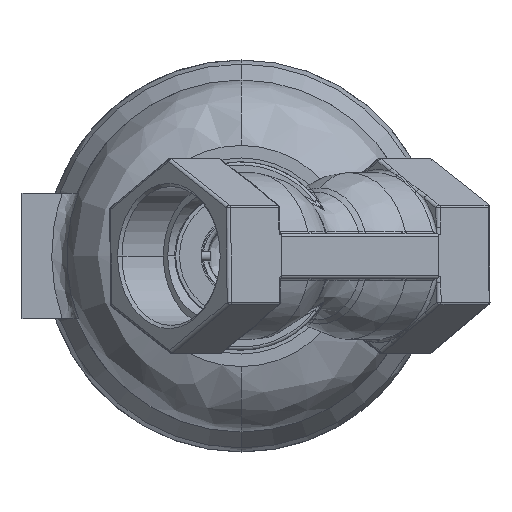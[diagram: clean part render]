
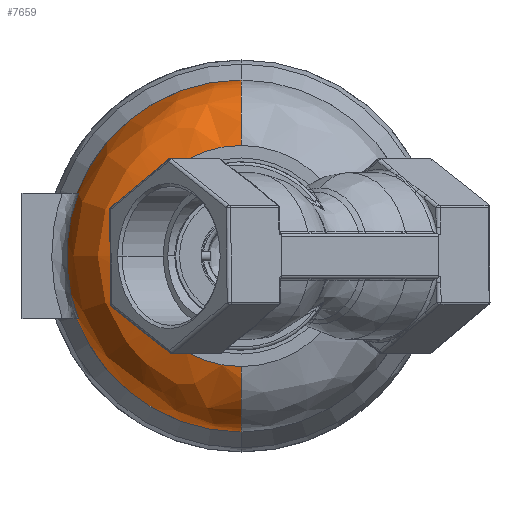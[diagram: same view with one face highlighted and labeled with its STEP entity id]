
A CAD part, front view. The second image highlights one B-rep face of the part: STEP entity #7659.
In plain terms, the highlighted free-form (B-spline) face has degree [3, 3] with [4, 4] control points.
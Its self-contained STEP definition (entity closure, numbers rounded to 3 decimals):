
#481 = CARTESIAN_POINT ( 'NONE',  ( -114., -53.48, 57. ) ) ;
#572 = CIRCLE ( 'NONE', #1756, 25.343 ) ;
#588 = CARTESIAN_POINT ( 'NONE',  ( -53.282, -55.169, -20.25 ) ) ;
#732 = VERTEX_POINT ( 'NONE', #18197 ) ;
#1079 = DIRECTION ( 'NONE',  ( 0., 0., -1. ) ) ;
#1756 = AXIS2_PLACEMENT_3D ( 'NONE', #14019, #4660, #15617 ) ;
#1948 = CARTESIAN_POINT ( 'NONE',  ( -71.627, -78.48, -35.814 ) ) ;
#2005 = CARTESIAN_POINT ( 'NONE',  ( 0., -53.48, -57. ) ) ;
#2077 = ORIENTED_EDGE ( 'NONE', *, *, #18089, .T. ) ;
#2284 = ORIENTED_EDGE ( 'NONE', *, *, #10965, .T. ) ;
#2806 = DIRECTION ( 'NONE',  ( 0., 0., -1. ) ) ;
#2828 = DIRECTION ( 'NONE',  ( 0., 1., 0. ) ) ;
#2875 = CARTESIAN_POINT ( 'NONE',  ( 0., -53.48, 0. ) ) ;
#3502 = CARTESIAN_POINT ( 'NONE',  ( 0., -76.352, 48.612 ) ) ;
#3590 = EDGE_CURVE ( 'NONE', #18694, #17084, #16952, .T. ) ;
#3657 = EDGE_CURVE ( 'NONE', #18694, #16664, #17733, .T. ) ;
#3845 = ORIENTED_EDGE ( 'NONE', *, *, #3657, .T. ) ;
#4653 = EDGE_CURVE ( 'NONE', #18358, #6309, #12442, .T. ) ;
#4660 = DIRECTION ( 'NONE',  ( -1., 0., 0. ) ) ;
#4801 =( BOUNDED_SURFACE ( )  B_SPLINE_SURFACE ( 3, 3, ( 
 ( #8132, #17447, #1948, #12843 ),
 ( #3502, #14421, #5065, #15982 ),
 ( #6606, #17517, #8207, #19038 ),
 ( #9767, #481, #11354, #2005 ) ),
 .UNSPECIFIED., .F., .F., .T. ) 
 B_SPLINE_SURFACE_WITH_KNOTS ( ( 4, 4 ),
 ( 4, 4 ),
 ( 0., 1. ),
 ( 0., 1. ),
 .UNSPECIFIED. ) 
 GEOMETRIC_REPRESENTATION_ITEM ( )  RATIONAL_B_SPLINE_SURFACE ( (
 ( 1., 0.333, 0.333, 1.),
 ( 0.842, 0.281, 0.281, 0.842),
 ( 0.842, 0.281, 0.281, 0.842),
 ( 1., 0.333, 0.333, 1.) ) ) 
 REPRESENTATION_ITEM ( '' )  SURFACE ( )  );
#4879 = ORIENTED_EDGE ( 'NONE', *, *, #14631, .F. ) ;
#5065 = CARTESIAN_POINT ( 'NONE',  ( -97.224, -76.352, -48.612 ) ) ;
#6309 = VERTEX_POINT ( 'NONE', #6536 ) ;
#6514 = CARTESIAN_POINT ( 'NONE',  ( 0., -53.48, -31.657 ) ) ;
#6536 = CARTESIAN_POINT ( 'NONE',  ( -53.282, -53.48, -20.25 ) ) ;
#6606 = CARTESIAN_POINT ( 'NONE',  ( 0., -66.454, 57. ) ) ;
#6691 = AXIS2_PLACEMENT_3D ( 'NONE', #2875, #2828, #2806 ) ;
#6847 = AXIS2_PLACEMENT_3D ( 'NONE', #19643, #10414, #1079 ) ;
#6997 = CARTESIAN_POINT ( 'NONE',  ( 0., -53.48, 57. ) ) ;
#7222 = CIRCLE ( 'NONE', #6847, 56.5 ) ;
#7507 = EDGE_CURVE ( 'NONE', #16664, #732, #7222, .T. ) ;
#7659 = ADVANCED_FACE ( 'NONE', ( #7727 ), #4801, .T. ) ;
#7727 = FACE_OUTER_BOUND ( 'NONE', #9461, .T. ) ;
#7861 = CARTESIAN_POINT ( 'NONE',  ( 0., -78.48, 0. ) ) ;
#7876 = B_SPLINE_CURVE_WITH_KNOTS ( 'NONE', 3,
 ( #18957, #17623, #588, #11472 ),
 .UNSPECIFIED., .F., .F.,
 ( 4, 4 ),
 ( 0., 0.005 ),
 .UNSPECIFIED. ) ;
#7981 = VERTEX_POINT ( 'NONE', #13850 ) ;
#8106 = DIRECTION ( 'NONE',  ( 0., 0., -1. ) ) ;
#8132 = CARTESIAN_POINT ( 'NONE',  ( 0., -78.48, 35.814 ) ) ;
#8207 = CARTESIAN_POINT ( 'NONE',  ( -114., -66.454, -57. ) ) ;
#9437 = DIRECTION ( 'NONE',  ( 0., 0., -1. ) ) ;
#9461 = EDGE_LOOP ( 'NONE', ( #2284, #2077, #16192, #3845, #14835, #19716, #11373, #4879 ) ) ;
#9767 = CARTESIAN_POINT ( 'NONE',  ( 0., -53.48, 57. ) ) ;
#9993 = CARTESIAN_POINT ( 'NONE',  ( -52.746, -58.491, 20.25 ) ) ;
#10198 = AXIS2_PLACEMENT_3D ( 'NONE', #6514, #17419, #8106 ) ;
#10414 = DIRECTION ( 'NONE',  ( 0., -1., 0. ) ) ;
#10965 = EDGE_CURVE ( 'NONE', #19970, #7981, #16735, .T. ) ;
#11116 = CARTESIAN_POINT ( 'NONE',  ( -52.746, -58.491, 20.25 ) ) ;
#11140 = CARTESIAN_POINT ( 'NONE',  ( -53.282, -53.48, 20.25 ) ) ;
#11284 = CARTESIAN_POINT ( 'NONE',  ( -53.282, -55.169, 20.25 ) ) ;
#11354 = CARTESIAN_POINT ( 'NONE',  ( -114., -53.48, -57. ) ) ;
#11373 = ORIENTED_EDGE ( 'NONE', *, *, #4653, .F. ) ;
#11388 = CARTESIAN_POINT ( 'NONE',  ( -53.103, -56.84, 20.25 ) ) ;
#11472 = CARTESIAN_POINT ( 'NONE',  ( -53.282, -53.48, -20.25 ) ) ;
#11643 = CIRCLE ( 'NONE', #10198, 25.343 ) ;
#12214 = DIRECTION ( 'NONE',  ( 0., 0., -1. ) ) ;
#12235 = DIRECTION ( 'NONE',  ( 0., 1., 0. ) ) ;
#12270 = CARTESIAN_POINT ( 'NONE',  ( 0., -53.48, 0. ) ) ;
#12442 = CIRCLE ( 'NONE', #6691, 57. ) ;
#12843 = CARTESIAN_POINT ( 'NONE',  ( 0., -78.48, -35.814 ) ) ;
#13018 = AXIS2_PLACEMENT_3D ( 'NONE', #12270, #12235, #12214 ) ;
#13850 = CARTESIAN_POINT ( 'NONE',  ( 0., -78.48, 35.814 ) ) ;
#14019 = CARTESIAN_POINT ( 'NONE',  ( 0., -53.48, 31.657 ) ) ;
#14421 = CARTESIAN_POINT ( 'NONE',  ( -97.224, -76.352, 48.612 ) ) ;
#14496 = CARTESIAN_POINT ( 'NONE',  ( 0., -53.48, -57. ) ) ;
#14631 = EDGE_CURVE ( 'NONE', #19970, #18358, #11643, .T. ) ;
#14835 = ORIENTED_EDGE ( 'NONE', *, *, #7507, .T. ) ;
#15617 = DIRECTION ( 'NONE',  ( 0., 0., 1. ) ) ;
#15982 = CARTESIAN_POINT ( 'NONE',  ( 0., -76.352, -48.612 ) ) ;
#16192 = ORIENTED_EDGE ( 'NONE', *, *, #3590, .F. ) ;
#16508 = CARTESIAN_POINT ( 'NONE',  ( 0., -78.48, -35.814 ) ) ;
#16664 = VERTEX_POINT ( 'NONE', #9993 ) ;
#16735 = CIRCLE ( 'NONE', #17268, 35.814 ) ;
#16952 = CIRCLE ( 'NONE', #13018, 57. ) ;
#17084 = VERTEX_POINT ( 'NONE', #6997 ) ;
#17268 = AXIS2_PLACEMENT_3D ( 'NONE', #7861, #18734, #9437 ) ;
#17352 = EDGE_CURVE ( 'NONE', #732, #6309, #7876, .T. ) ;
#17419 = DIRECTION ( 'NONE',  ( 1., 0., 0. ) ) ;
#17447 = CARTESIAN_POINT ( 'NONE',  ( -71.627, -78.48, 35.814 ) ) ;
#17517 = CARTESIAN_POINT ( 'NONE',  ( -114., -66.454, 57. ) ) ;
#17623 = CARTESIAN_POINT ( 'NONE',  ( -53.103, -56.84, -20.25 ) ) ;
#17733 = B_SPLINE_CURVE_WITH_KNOTS ( 'NONE', 3,
 ( #11140, #11284, #11388, #11116 ),
 .UNSPECIFIED., .F., .F.,
 ( 4, 4 ),
 ( 0., 0.005 ),
 .UNSPECIFIED. ) ;
#18089 = EDGE_CURVE ( 'NONE', #7981, #17084, #572, .T. ) ;
#18197 = CARTESIAN_POINT ( 'NONE',  ( -52.746, -58.491, -20.25 ) ) ;
#18358 = VERTEX_POINT ( 'NONE', #14496 ) ;
#18694 = VERTEX_POINT ( 'NONE', #19023 ) ;
#18734 = DIRECTION ( 'NONE',  ( 0., 1., 0. ) ) ;
#18957 = CARTESIAN_POINT ( 'NONE',  ( -52.746, -58.491, -20.25 ) ) ;
#19023 = CARTESIAN_POINT ( 'NONE',  ( -53.282, -53.48, 20.25 ) ) ;
#19038 = CARTESIAN_POINT ( 'NONE',  ( 0., -66.454, -57. ) ) ;
#19643 = CARTESIAN_POINT ( 'NONE',  ( 0., -58.491, 0. ) ) ;
#19716 = ORIENTED_EDGE ( 'NONE', *, *, #17352, .T. ) ;
#19970 = VERTEX_POINT ( 'NONE', #16508 ) ;
